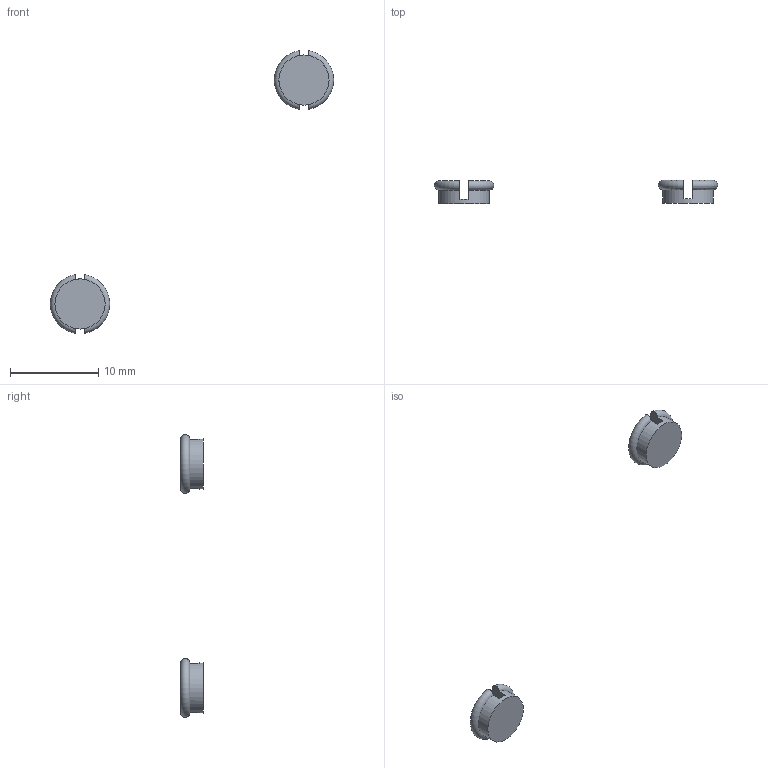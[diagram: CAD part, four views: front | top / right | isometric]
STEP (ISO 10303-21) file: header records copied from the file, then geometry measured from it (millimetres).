
FILE_DESCRIPTION(/* description */ (''),/* implementation_level */ '2;1');
FILE_NAME(/* name */ '/Users/lara/Documents/eTextileCamp/swatch/final/eTextile_Swatch_ stud_split.step',/* time_stamp */ '2017-07-14T02:23:17+02:00',/* author */ (''),/* organization */ (''),/* preprocessor_version */ 'ST-DEVELOPER v16.13',/* originating_system */ 'Autodesk Translation Framework v6.1.1.50',/* authorisation */ '');
FILE_SCHEMA (('AUTOMOTIVE_DESIGN { 1 0 10303 214 3 1 1 }'));
Length unit declared in the file: millimetre
Products named in the file (1): eTextile Swatch: Male split taller v1
Bounding box: 32.14 x 2.59 x 32.06 mm (x, y, z)
Volume: 122.9 mm3; surface area: 262 mm2
Topology: 2 solids, 2 shells, 19 faces, 45 edges, 30 vertices
Faces by surface type: plane 13, torus 4, cylinder 2
Full cylindrical faces by diameter (mm): 5.686 x2
Entity records: 661 total; most frequent: CARTESIAN_POINT 215, DIRECTION 91, ORIENTED_EDGE 82, EDGE_CURVE 41, AXIS2_PLACEMENT_3D 37, VERTEX_POINT 28, EDGE_LOOP 21, FACE_OUTER_BOUND 19
